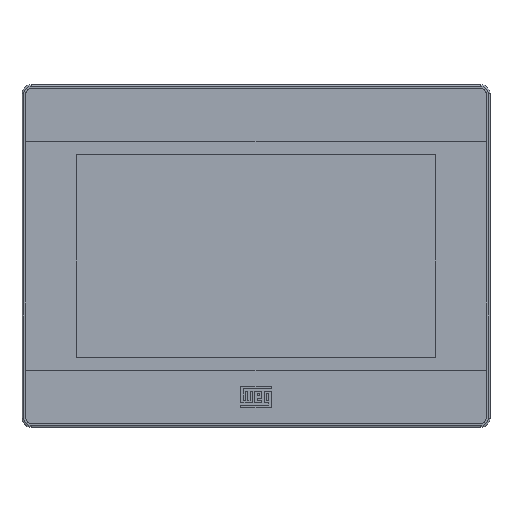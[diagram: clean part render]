
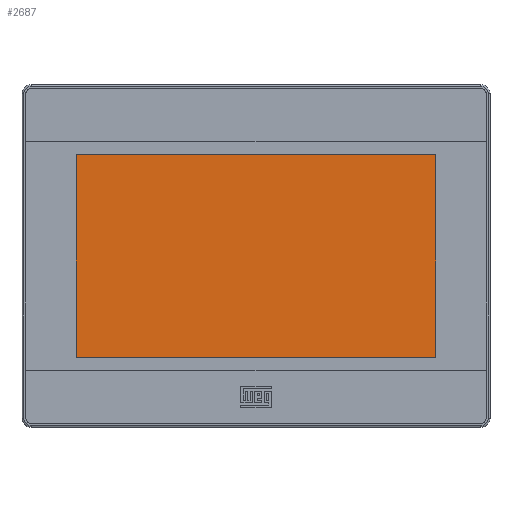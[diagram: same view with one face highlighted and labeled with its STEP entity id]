
A CAD part, top view. The second image highlights one B-rep face of the part: STEP entity #2687.
In plain terms, the highlighted planar face has unit normal (0, 0, 1).
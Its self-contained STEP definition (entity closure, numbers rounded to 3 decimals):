
#60 = DIRECTION ( 'NONE',  ( 1., 0., 0. ) ) ;
#134 = VERTEX_POINT ( 'NONE', #354 ) ;
#173 = ORIENTED_EDGE ( 'NONE', *, *, #266, .T. ) ;
#194 = EDGE_LOOP ( 'NONE', ( #2361, #173, #3737, #3289 ) ) ;
#233 = EDGE_CURVE ( 'NONE', #4133, #134, #777, .T. ) ;
#266 = EDGE_CURVE ( 'NONE', #3306, #4133, #4100, .T. ) ;
#273 = AXIS2_PLACEMENT_3D ( 'NONE', #2508, #4303, #60 ) ;
#329 = VECTOR ( 'NONE', #3255, 1000. ) ;
#354 = CARTESIAN_POINT ( 'NONE',  ( 76.825, 43.309, 34.59 ) ) ;
#374 = CARTESIAN_POINT ( 'NONE',  ( 76.825, 43.309, 34.59 ) ) ;
#457 = LINE ( 'NONE', #374, #488 ) ;
#488 = VECTOR ( 'NONE', #3445, 1000. ) ;
#777 = LINE ( 'NONE', #2900, #2538 ) ;
#1282 = EDGE_CURVE ( 'NONE', #2176, #3306, #1866, .T. ) ;
#1648 = CARTESIAN_POINT ( 'NONE',  ( 76.825, -43.31, 34.59 ) ) ;
#1673 = FACE_OUTER_BOUND ( 'NONE', #194, .T. ) ;
#1759 = CARTESIAN_POINT ( 'NONE',  ( -76.825, 43.309, 34.59 ) ) ;
#1866 = LINE ( 'NONE', #1759, #3192 ) ;
#2176 = VERTEX_POINT ( 'NONE', #3620 ) ;
#2184 = PLANE ( 'NONE',  #273 ) ;
#2361 = ORIENTED_EDGE ( 'NONE', *, *, #1282, .T. ) ;
#2502 = CARTESIAN_POINT ( 'NONE',  ( -76.825, -43.31, 34.59 ) ) ;
#2508 = CARTESIAN_POINT ( 'NONE',  ( 0., 0., 34.59 ) ) ;
#2538 = VECTOR ( 'NONE', #4328, 1000. ) ;
#2687 = ADVANCED_FACE ( 'NONE', ( #1673 ), #2184, .T. ) ;
#2900 = CARTESIAN_POINT ( 'NONE',  ( 76.825, -43.31, 34.59 ) ) ;
#2931 = CARTESIAN_POINT ( 'NONE',  ( -76.825, -43.31, 34.59 ) ) ;
#3192 = VECTOR ( 'NONE', #3905, 1000. ) ;
#3255 = DIRECTION ( 'NONE',  ( 1., 0., 0. ) ) ;
#3289 = ORIENTED_EDGE ( 'NONE', *, *, #4395, .T. ) ;
#3306 = VERTEX_POINT ( 'NONE', #2502 ) ;
#3445 = DIRECTION ( 'NONE',  ( -1., 0., 0. ) ) ;
#3620 = CARTESIAN_POINT ( 'NONE',  ( -76.825, 43.309, 34.59 ) ) ;
#3737 = ORIENTED_EDGE ( 'NONE', *, *, #233, .T. ) ;
#3905 = DIRECTION ( 'NONE',  ( 0., -1., 0. ) ) ;
#4100 = LINE ( 'NONE', #2931, #329 ) ;
#4133 = VERTEX_POINT ( 'NONE', #1648 ) ;
#4303 = DIRECTION ( 'NONE',  ( 0., 0., 1. ) ) ;
#4328 = DIRECTION ( 'NONE',  ( 0., 1., 0. ) ) ;
#4395 = EDGE_CURVE ( 'NONE', #134, #2176, #457, .T. ) ;
